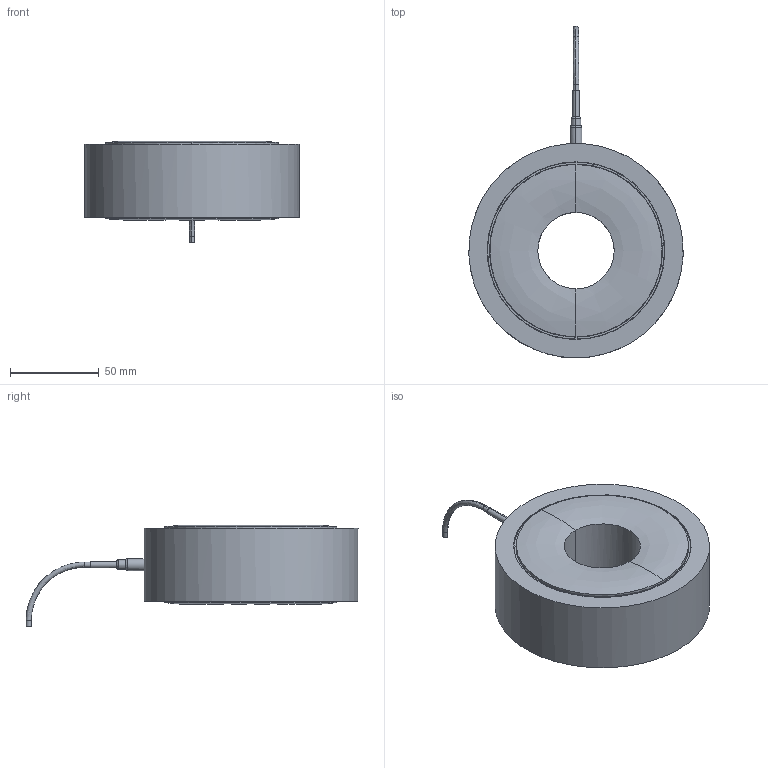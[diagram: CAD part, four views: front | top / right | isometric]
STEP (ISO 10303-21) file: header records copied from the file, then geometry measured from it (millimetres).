
FILE_DESCRIPTION (( 'STEP AP214' ), '1' );
FILE_NAME ('SM71-M42-2000KN.STEP', '2023-09-26T09:40:52', ( '' ), ( '' ), 'SwSTEP 2.0', 'SolidWorks 2019', '' );
FILE_SCHEMA (( 'AUTOMOTIVE_DESIGN' ));
Length unit declared in the file: millimetre
Products named in the file (2): SM71-M42-2000KN
Bounding box: 120.71 x 187.05 x 57.25 mm (x, y, z)
Volume: 428151.4 mm3; surface area: 43683.6 mm2
Topology: 1 solids, 1 shells, 46 faces, 92 edges, 52 vertices
Faces by surface type: bspline 39, plane 7
Entity records: 3515 total; most frequent: CARTESIAN_POINT 2775, ORIENTED_EDGE 184, EDGE_CURVE 92, B_SPLINE_CURVE_WITH_KNOTS 68, VERTEX_POINT 52, EDGE_LOOP 52, ADVANCED_FACE 46, FACE_OUTER_BOUND 46
